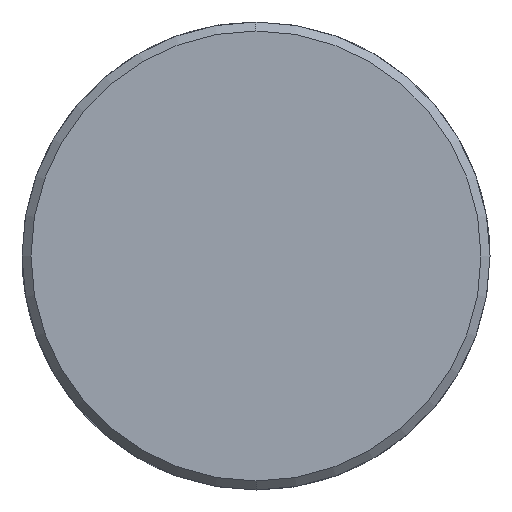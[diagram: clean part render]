
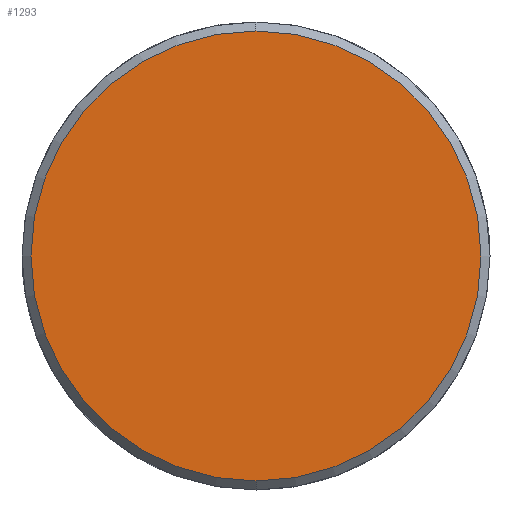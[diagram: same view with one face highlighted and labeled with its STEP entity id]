
A CAD part, left-side view. The second image highlights one B-rep face of the part: STEP entity #1293.
In plain terms, the highlighted planar face has unit normal (-1, 0, 0).
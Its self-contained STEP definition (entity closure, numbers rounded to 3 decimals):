
#1225=CARTESIAN_POINT('Vertex',(-8.,0.,-25.)) ;
#1228=CARTESIAN_POINT('Axis2P3D Location',(-8.,0.,0.)) ;
#1232=CARTESIAN_POINT('Vertex',(-8.,25.,0.)) ;
#1235=CARTESIAN_POINT('Axis2P3D Location',(-8.,0.,0.)) ;
#1239=CARTESIAN_POINT('Vertex',(-8.,0.,25.)) ;
#1261=CARTESIAN_POINT('Axis2P3D Location',(-8.,0.,0.)) ;
#1265=CARTESIAN_POINT('Vertex',(-8.,-25.,0.)) ;
#1268=CARTESIAN_POINT('Axis2P3D Location',(-8.,0.,0.)) ;
#1282=CARTESIAN_POINT('Axis2P3D Location',(-8.,0.,0.)) ;
#1229=DIRECTION('Axis2P3D Direction',(1.,0.,-0.)) ;
#1236=DIRECTION('Axis2P3D Direction',(1.,0.,-0.)) ;
#1262=DIRECTION('Axis2P3D Direction',(1.,0.,-0.)) ;
#1269=DIRECTION('Axis2P3D Direction',(1.,0.,-0.)) ;
#1283=DIRECTION('Axis2P3D Direction',(1.,0.,-0.)) ;
#1284=DIRECTION('Axis2P3D XDirection',(-0.,0.,-1.)) ;
#1230=AXIS2_PLACEMENT_3D('Circle Axis2P3D',#1228,#1229,$) ;
#1237=AXIS2_PLACEMENT_3D('Circle Axis2P3D',#1235,#1236,$) ;
#1263=AXIS2_PLACEMENT_3D('Circle Axis2P3D',#1261,#1262,$) ;
#1270=AXIS2_PLACEMENT_3D('Circle Axis2P3D',#1268,#1269,$) ;
#1285=AXIS2_PLACEMENT_3D('Plane Axis2P3D',#1282,#1283,#1284) ;
#1288=ORIENTED_EDGE('',*,*,#1234,.F.) ;
#1289=ORIENTED_EDGE('',*,*,#1272,.F.) ;
#1290=ORIENTED_EDGE('',*,*,#1267,.F.) ;
#1291=ORIENTED_EDGE('',*,*,#1241,.F.) ;
#1293=ADVANCED_FACE('351-40X116X200',(#1292),#1286,.F.) ;
#1231=CIRCLE('generated circle',#1230,25.) ;
#1238=CIRCLE('generated circle',#1237,25.) ;
#1264=CIRCLE('generated circle',#1263,25.) ;
#1271=CIRCLE('generated circle',#1270,25.) ;
#1234=EDGE_CURVE('',#1226,#1233,#1231,.T.) ;
#1241=EDGE_CURVE('',#1233,#1240,#1238,.T.) ;
#1267=EDGE_CURVE('',#1240,#1266,#1264,.T.) ;
#1272=EDGE_CURVE('',#1266,#1226,#1271,.T.) ;
#1287=EDGE_LOOP('',(#1288,#1289,#1290,#1291)) ;
#1292=FACE_OUTER_BOUND('',#1287,.T.) ;
#1286=PLANE('Plane',#1285) ;
#1226=VERTEX_POINT('',#1225) ;
#1233=VERTEX_POINT('',#1232) ;
#1240=VERTEX_POINT('',#1239) ;
#1266=VERTEX_POINT('',#1265) ;
